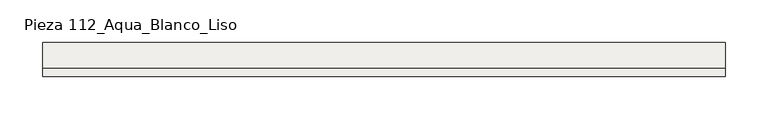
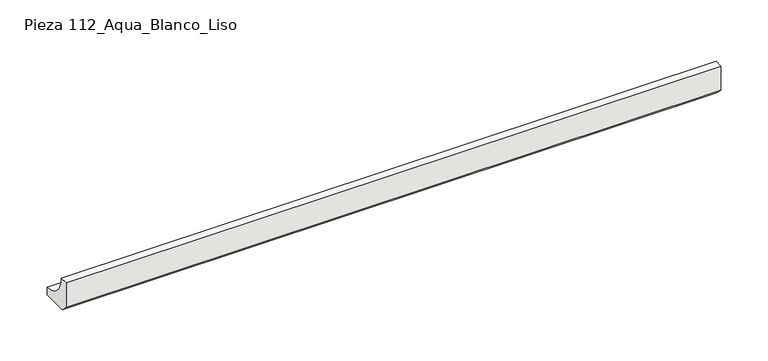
"""IFC4 building model written with IfcOpenShell, lengths in millimetres: slab geometry, ROSA GRES_112 : Pieza 112_Aqua_Blanco_Liso."""

from ifc_helpers import new_model, si_unit, point, frame, frame_2d, origin, place, context, project, spatial, polyline, circle_curve, trimmed, segment, composite_curve, outline, extrude, source, transform, mapped, element, save


def pieza_112_aqua_blanco_liso_4f041a47(model_context):
    return source(origin(), model_context, "Body", "SweptSolid", [
        extrude(outline(composite_curve([segment(polyline([(-9.9734114, 8.7114978), (-9.9734114, 40.0), (0.0, 40.0)]), True, "CONTINUOUS"), segment(trimmed(circle_curve(frame_2d((30.0221432, 39.9955547)), 30.0221435), [point((0.0, 40.0))], [point((30.0265886, 9.9734114))], True, "CARTESIAN"), True, "CONTINUOUS"), segment(polyline([(30.0265886, 9.9734114), (30.0265886, 0.0), (-1.2619137, 0.0), (-9.9734114, 8.7114978)]), True, "CONTINUOUS")], self_intersect=False)), frame((0.0, 0.0, 0.0), z_axis=(1.0, 0.0, 0.0), x_axis=(0.0, 1.0, 0.0)), (0.0, 0.0, 1.0), 800.0),
    ])


if __name__ == "__main__":
    model = new_model("IFC4")
    model_context = context("Model", 3, world=origin())
    ifc_project = project(units=[si_unit("LENGTHUNIT", "METRE", prefix="MILLI")], contexts=[model_context])
    site = spatial("IfcSite", under=ifc_project)
    building = spatial("IfcBuilding", under=site)
    placement = place(None, origin())
    pieza_112_aqua_blanco_liso_shape = pieza_112_aqua_blanco_liso_4f041a47(model_context)
    element("IfcSlab", 1, ObjectType="ROSA GRES_112 : Pieza 112_Aqua_Blanco_Liso", at=placement, inside=building, context=model_context, shape_type="MappedRepresentation", body=[
        mapped(pieza_112_aqua_blanco_liso_shape, transform((0.0, 0.0, 0.0), x_axis=(1.0, 0.0, 0.0), y_axis=(0.0, 1.0, 0.0), z_axis=(0.0, 0.0, 1.0))),
    ])
    save(model, "model.ifc")
